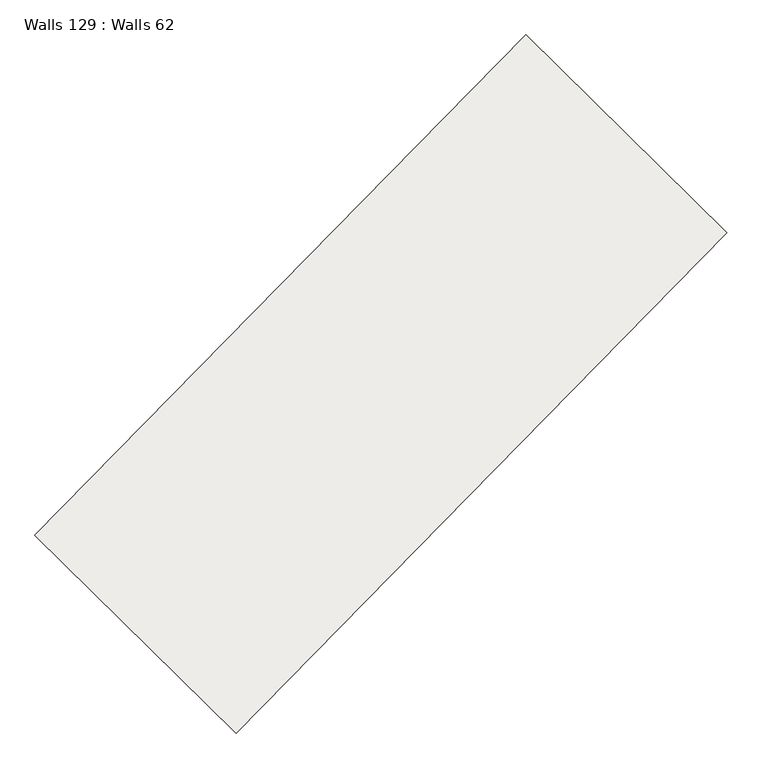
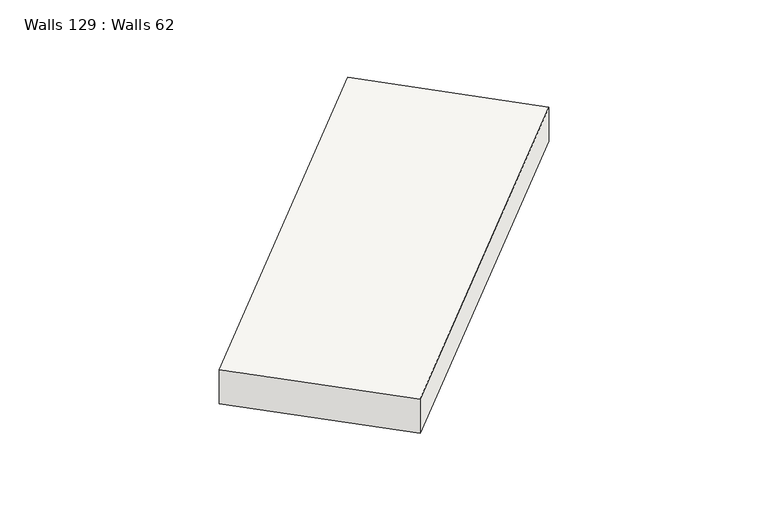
"""IFC4 building model written with IfcOpenShell, lengths in millimetres: slab geometry, Walls 129 : Walls 62."""

from ifc_helpers import new_model, si_unit, frame, origin, place, context, project, spatial, polyline, outline, extrude, source, transform, mapped, element, save


def walls_129_walls_62_225b0d64(model_context):
    return source(origin(), model_context, "Body", "SweptSolid", [
        extrude(outline(polyline([(-350.0, 0.0), (350.0, 0.0), (233.1802672, -8699.9999995), (-466.8197328, -8699.9999995), (-350.0, 0.0)])), frame((-6115.1741846, -165433.612413, 638386.8197328), z_axis=(-0.7137361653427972, 0.7004146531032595, 0.0), x_axis=(0.0, 0.0, 1.0)), (0.0, 0.0, 1.0), 3499.999995),
    ])


if __name__ == "__main__":
    model = new_model("IFC4")
    model_context = context("Model", 3, world=origin())
    ifc_project = project(units=[si_unit("LENGTHUNIT", "METRE", prefix="MILLI")], contexts=[model_context])
    site = spatial("IfcSite", under=ifc_project)
    building = spatial("IfcBuilding", under=site)
    placement = place(None, origin())
    walls_129_walls_62_shape = walls_129_walls_62_225b0d64(model_context)
    element("IfcSlab", 1, ObjectType="Walls 129 : Walls 62", at=placement, inside=building, context=model_context, shape_type="MappedRepresentation", body=[
        mapped(walls_129_walls_62_shape, transform((0.0, 0.0, 0.0), x_axis=(1.0, 0.0, 0.0), y_axis=(0.0, 1.0, 0.0), z_axis=(0.0, 0.0, 1.0))),
    ])
    save(model, "model.ifc")
